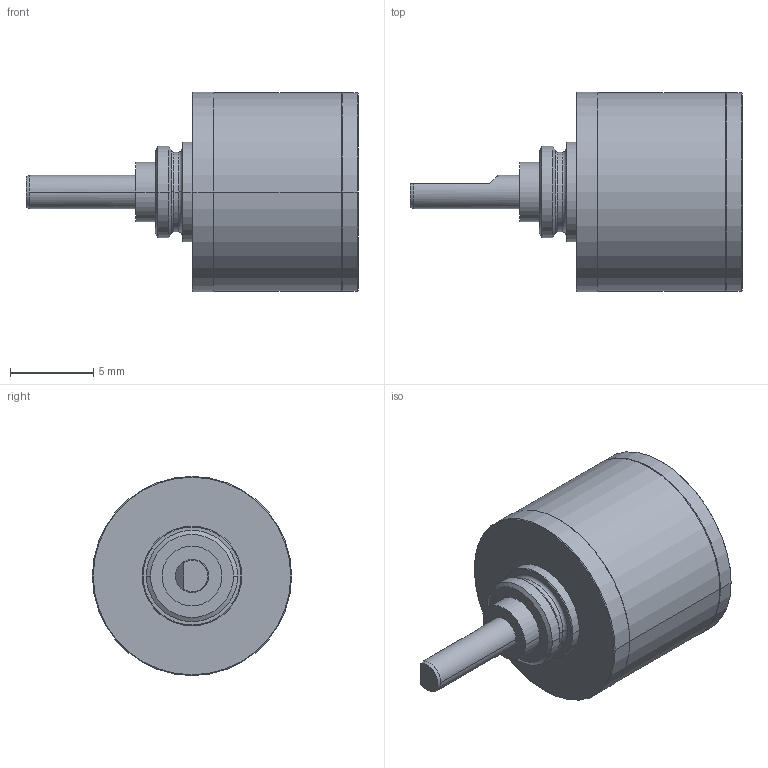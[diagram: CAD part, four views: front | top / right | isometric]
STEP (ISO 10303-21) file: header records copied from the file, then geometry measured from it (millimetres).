
FILE_DESCRIPTION((''),'2;1');
FILE_NAME('GS12A','2016-10-06T',('mmagpetk'),(''),'CREO PARAMETRIC BY PTC INC, 2016050','CREO PARAMETRIC BY PTC INC, 2016050','');
FILE_SCHEMA(('CONFIG_CONTROL_DESIGN'));
Length unit declared in the file: millimetre
Products named in the file (1): GS12A
Bounding box: 20 x 12 x 12 mm (x, y, z)
Volume: 1004.7 mm3; surface area: 1008.4 mm2
Topology: 1 solids, 1 shells, 94 faces, 201 edges, 122 vertices
Faces by surface type: cylinder 34, plane 25, cone 25, torus 10
Entity records: 3339 total; most frequent: CARTESIAN_POINT 504, DIRECTION 492, ORIENTED_EDGE 402, AXIS2_PLACEMENT_3D 211, PRESENTATION_STYLE_ASSIGNMENT 202, STYLED_ITEM 202, CURVE_STYLE 201, EDGE_CURVE 201
